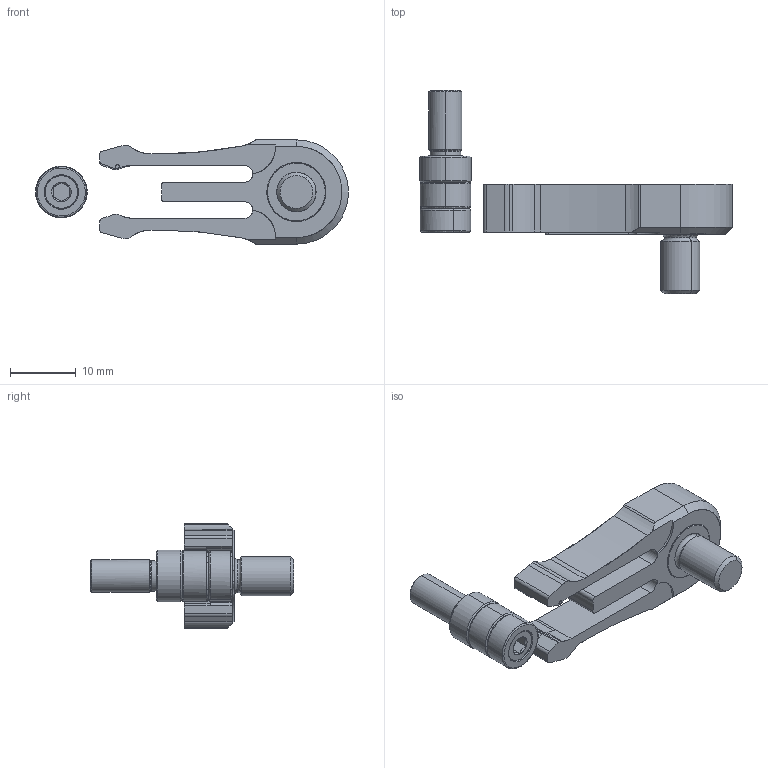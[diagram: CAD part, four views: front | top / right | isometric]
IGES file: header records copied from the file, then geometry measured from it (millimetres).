
Start section: START RECORD GO HERE.
Global section: file name: rcm163808.igs; native system: DASSAULT SYSTEMES CATIA V5 R20 - www.3ds.com; preprocessor: CATIA Version 5 Release 20 ; author: Utente; organization: NB04-ASUS; date: 20201103.214856; units: millimetre
Bounding box: 47.74 x 30.97 x 15.9 mm (x, y, z)
Surface area: 3686.6 mm2 (no closed solid volume)
Topology: 0 solids, 0 shells, 203 faces, 946 edges, 944 vertices
Faces by surface type: revolution 131, plane 72
